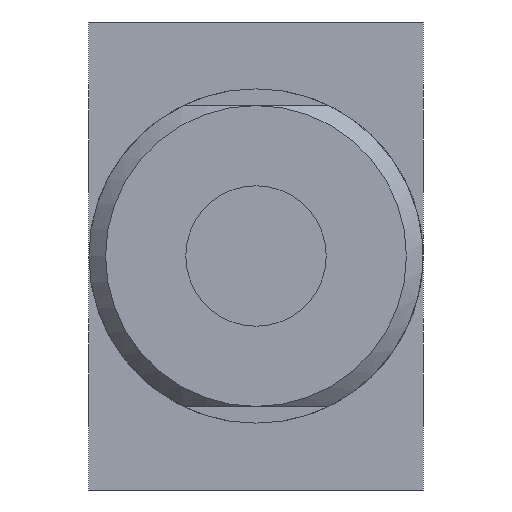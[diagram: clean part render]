
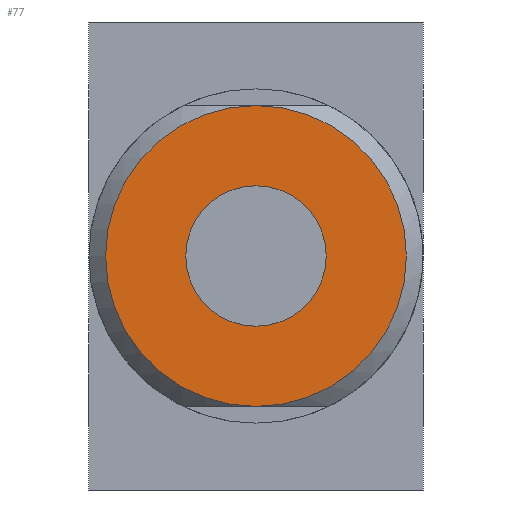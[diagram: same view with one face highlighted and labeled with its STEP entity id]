
A CAD part, left-side view. The second image highlights one B-rep face of the part: STEP entity #77.
In plain terms, the highlighted planar face has unit normal (-1, 0, 0).
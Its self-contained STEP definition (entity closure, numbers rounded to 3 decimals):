
#77=ADVANCED_FACE('',(#106,#107),#108,.T.);
#106=FACE_OUTER_BOUND('',#171,.T.);
#107=FACE_BOUND('',#172,.T.);
#108=PLANE('',#173);
#171=EDGE_LOOP('',(#244,#245));
#172=EDGE_LOOP('',(#246));
#173=AXIS2_PLACEMENT_3D('',#247,#248,#249);
#244=ORIENTED_EDGE('',*,*,#401,.T.);
#245=ORIENTED_EDGE('',*,*,#402,.T.);
#246=ORIENTED_EDGE('',*,*,#400,.T.);
#247=CARTESIAN_POINT('',(-5.0,0.0,0.0));
#248=DIRECTION('',(-1.0,0.0,0.0));
#249=DIRECTION('',(0.0,-1.0,0.0));
#400=EDGE_CURVE('',#450,#450,#451,.T.);
#401=EDGE_CURVE('',#445,#452,#453,.T.);
#402=EDGE_CURVE('',#452,#445,#454,.T.);
#445=VERTEX_POINT('',#524);
#450=VERTEX_POINT('',#541);
#451=CIRCLE('',#542,2.1);
#452=VERTEX_POINT('',#543);
#453=CIRCLE('',#544,4.5);
#454=CIRCLE('',#545,4.5);
#524=CARTESIAN_POINT('',(-5.0,0.,-4.5));
#541=CARTESIAN_POINT('',(-5.0,-2.1,0.0));
#542=AXIS2_PLACEMENT_3D('',#640,#641,#642);
#543=CARTESIAN_POINT('',(-5.0,0.0,4.5));
#544=AXIS2_PLACEMENT_3D('',#643,#644,#645);
#545=AXIS2_PLACEMENT_3D('',#646,#647,#648);
#640=CARTESIAN_POINT('',(-5.0,0.0,0.0));
#641=DIRECTION('',(1.0,0.0,0.0));
#642=DIRECTION('',(0.0,-1.0,0.0));
#643=CARTESIAN_POINT('',(-5.0,0.0,0.0));
#644=DIRECTION('',(-1.0,0.0,0.0));
#645=DIRECTION('',(0.0,-1.0,0.0));
#646=CARTESIAN_POINT('',(-5.0,0.0,0.0));
#647=DIRECTION('',(-1.0,0.0,0.0));
#648=DIRECTION('',(0.0,-1.0,0.0));
